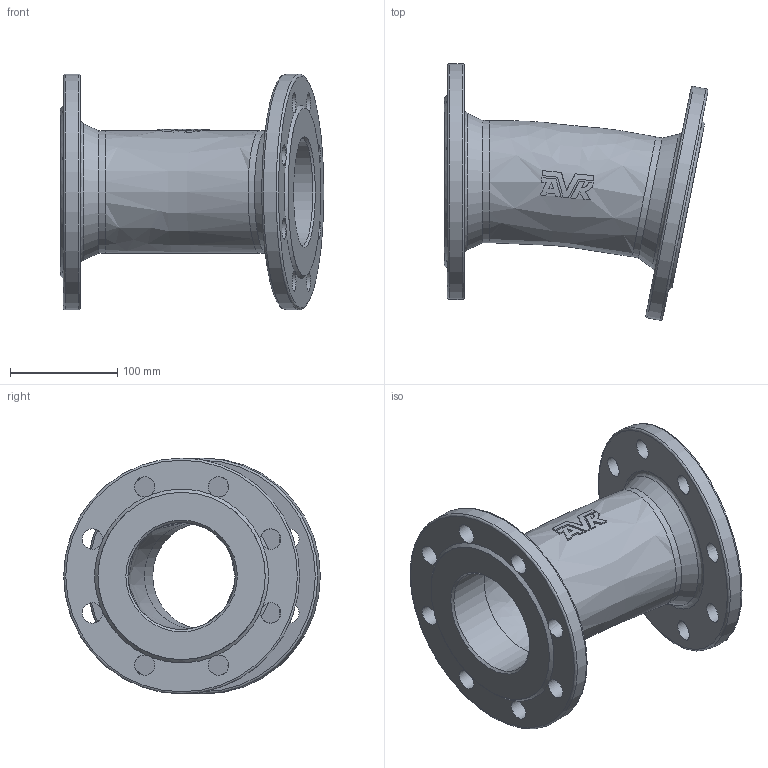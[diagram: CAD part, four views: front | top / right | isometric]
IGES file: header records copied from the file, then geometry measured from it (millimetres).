
Start section: SolidWorks IGES file using analytic representation for surfaces
Global section: file name: \\avksan2\techshare\PBM outline export from Enovia\O_712_0110_DN100_1X_REV01.igs; native system: SolidWorks 2022; preprocessor: SolidWorks 2022; author: pbm; date: 240815.093457; units: millimetre
Bounding box: 245.96 x 239.38 x 220 mm (x, y, z)
Surface area: 279148.9 mm2 (no closed solid volume)
Topology: 0 solids, 0 shells, 83 faces, 457 edges, 421 vertices
Faces by surface type: revolution 42, bspline 41
